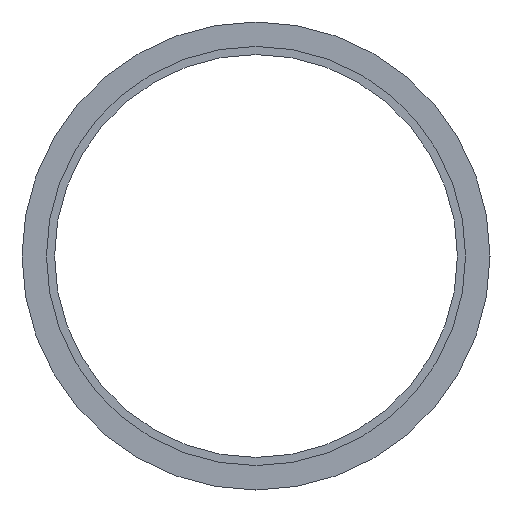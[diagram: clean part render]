
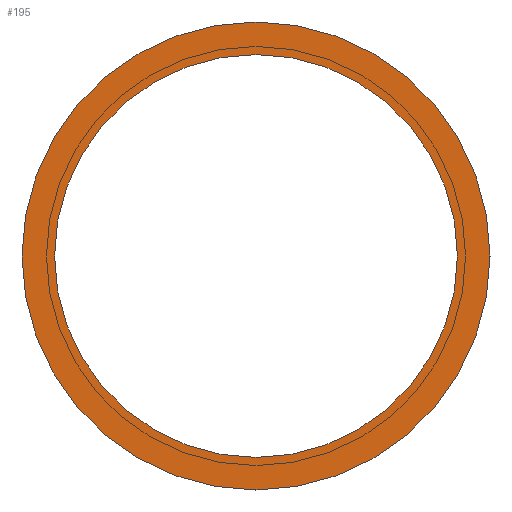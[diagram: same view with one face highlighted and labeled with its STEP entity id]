
A CAD part, left-side view. The second image highlights one B-rep face of the part: STEP entity #195.
In plain terms, the highlighted planar face has unit normal (-1, 0, 0).
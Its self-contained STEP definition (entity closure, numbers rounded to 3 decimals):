
#84=CARTESIAN_POINT('',(-31.881,54.317,49.5));
#85=VERTEX_POINT('',#84);
#86=CARTESIAN_POINT('',(-31.881,54.317,0.0));
#87=DIRECTION('',(1.0,0.0,0.0));
#88=DIRECTION('',(0.0,0.0,-1.0));
#89=AXIS2_PLACEMENT_3D('',#86,#87,#88);
#90=CIRCLE('',#89,49.5);
#91=EDGE_CURVE('',#85,#85,#90,.T.);
#169=CARTESIAN_POINT('',(-31.881,-3.183,0.0));
#170=VERTEX_POINT('',#169);
#171=CARTESIAN_POINT('',(-31.881,54.317,0.0));
#172=DIRECTION('',(-1.0,0.0,0.0));
#173=DIRECTION('',(0.0,-1.0,0.0));
#174=AXIS2_PLACEMENT_3D('',#171,#172,#173);
#175=CIRCLE('',#174,57.5);
#176=EDGE_CURVE('',#170,#170,#175,.T.);
#184=CARTESIAN_POINT('',(-31.881,25.567,0.0));
#185=DIRECTION('',(-1.0,0.0,0.0));
#186=DIRECTION('',(0.0,0.0,1.0));
#187=AXIS2_PLACEMENT_3D('',#184,#185,#186);
#188=PLANE('',#187);
#189=ORIENTED_EDGE('',*,*,#176,.T.);
#190=EDGE_LOOP('',(#189));
#191=FACE_OUTER_BOUND('',#190,.T.);
#192=ORIENTED_EDGE('',*,*,#91,.T.);
#193=EDGE_LOOP('',(#192));
#194=FACE_BOUND('',#193,.T.);
#195=ADVANCED_FACE('',(#191,#194),#188,.T.);
